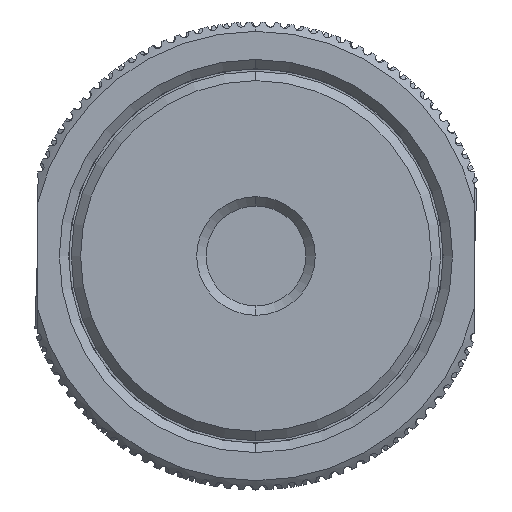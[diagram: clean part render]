
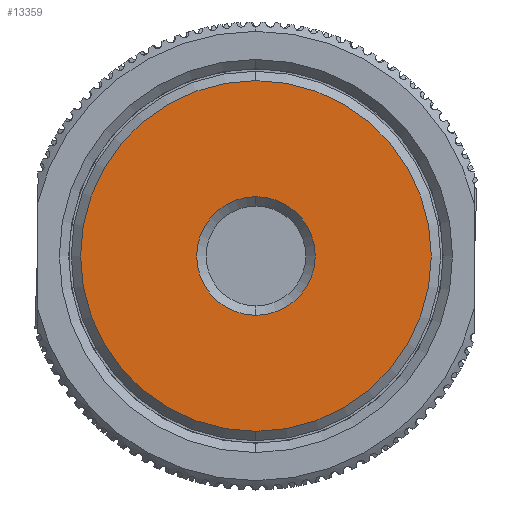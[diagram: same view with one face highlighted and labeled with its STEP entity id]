
A CAD part, front view. The second image highlights one B-rep face of the part: STEP entity #13359.
In plain terms, the highlighted planar face has unit normal (0, -1, 0).
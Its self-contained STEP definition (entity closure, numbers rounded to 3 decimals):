
#263 = CARTESIAN_POINT ( 'NONE',  ( 0., 0., -1.9 ) ) ;
#1245 = DIRECTION ( 'NONE',  ( 0., 1., 0. ) ) ;
#1268 = CIRCLE ( 'NONE', #15038, 5.62 ) ;
#1331 = EDGE_CURVE ( 'NONE', #10708, #13546, #19716, .T. ) ;
#1940 = AXIS2_PLACEMENT_3D ( 'NONE', #10561, #14485, #18294 ) ;
#2068 = AXIS2_PLACEMENT_3D ( 'NONE', #15314, #5911, #13396 ) ;
#2453 = ORIENTED_EDGE ( 'NONE', *, *, #8540, .T. ) ;
#2733 = CARTESIAN_POINT ( 'NONE',  ( 0., 0., 0. ) ) ;
#3243 = CARTESIAN_POINT ( 'NONE',  ( 0., 0., -5.62 ) ) ;
#3313 = FACE_OUTER_BOUND ( 'NONE', #20682, .T. ) ;
#4945 = ORIENTED_EDGE ( 'NONE', *, *, #19540, .T. ) ;
#5212 = FACE_BOUND ( 'NONE', #6387, .T. ) ;
#5466 = PLANE ( 'NONE',  #17239 ) ;
#5911 = DIRECTION ( 'NONE',  ( 0., 1., 0. ) ) ;
#6387 = EDGE_LOOP ( 'NONE', ( #19696, #16193 ) ) ;
#8540 = EDGE_CURVE ( 'NONE', #11803, #23608, #1268, .T. ) ;
#10533 = DIRECTION ( 'NONE',  ( 0., 0., 1. ) ) ;
#10561 = CARTESIAN_POINT ( 'NONE',  ( 0., 0., 0. ) ) ;
#10708 = VERTEX_POINT ( 'NONE', #15600 ) ;
#11803 = VERTEX_POINT ( 'NONE', #3243 ) ;
#12845 = DIRECTION ( 'NONE',  ( 0., 1., 0. ) ) ;
#13359 = ADVANCED_FACE ( 'NONE', ( #3313, #5212 ), #5466, .F. ) ;
#13396 = DIRECTION ( 'NONE',  ( 0., 0., 1. ) ) ;
#13546 = VERTEX_POINT ( 'NONE', #263 ) ;
#14036 = AXIS2_PLACEMENT_3D ( 'NONE', #14700, #1245, #10533 ) ;
#14485 = DIRECTION ( 'NONE',  ( 0., -1., 0. ) ) ;
#14700 = CARTESIAN_POINT ( 'NONE',  ( 0., 0., 0. ) ) ;
#14746 = DIRECTION ( 'NONE',  ( 0., 0., 1. ) ) ;
#15038 = AXIS2_PLACEMENT_3D ( 'NONE', #2733, #15936, #18096 ) ;
#15046 = CIRCLE ( 'NONE', #2068, 1.9 ) ;
#15314 = CARTESIAN_POINT ( 'NONE',  ( 0., 0., 0. ) ) ;
#15600 = CARTESIAN_POINT ( 'NONE',  ( 0., 0., 1.9 ) ) ;
#15936 = DIRECTION ( 'NONE',  ( 0., -1., 0. ) ) ;
#16193 = ORIENTED_EDGE ( 'NONE', *, *, #1331, .T. ) ;
#17239 = AXIS2_PLACEMENT_3D ( 'NONE', #18681, #12845, #14746 ) ;
#18096 = DIRECTION ( 'NONE',  ( 0., 0., 1. ) ) ;
#18294 = DIRECTION ( 'NONE',  ( 0., 0., 1. ) ) ;
#18681 = CARTESIAN_POINT ( 'NONE',  ( 0., 0., 0. ) ) ;
#19540 = EDGE_CURVE ( 'NONE', #23608, #11803, #19790, .T. ) ;
#19696 = ORIENTED_EDGE ( 'NONE', *, *, #25032, .T. ) ;
#19716 = CIRCLE ( 'NONE', #14036, 1.9 ) ;
#19790 = CIRCLE ( 'NONE', #1940, 5.62 ) ;
#20682 = EDGE_LOOP ( 'NONE', ( #4945, #2453 ) ) ;
#21914 = CARTESIAN_POINT ( 'NONE',  ( 0., 0., 5.62 ) ) ;
#23608 = VERTEX_POINT ( 'NONE', #21914 ) ;
#25032 = EDGE_CURVE ( 'NONE', #13546, #10708, #15046, .T. ) ;
